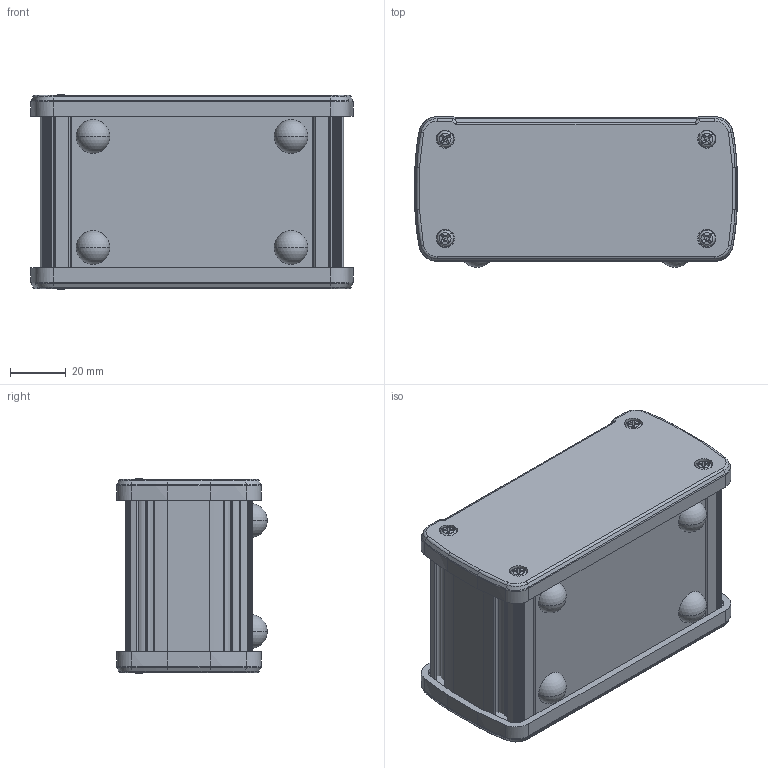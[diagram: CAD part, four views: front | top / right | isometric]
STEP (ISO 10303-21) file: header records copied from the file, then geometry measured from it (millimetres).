
FILE_DESCRIPTION (( 'STEP AP203' ), '1' );
FILE_NAME ('EX-56-01.step', '2017-08-29T18:19:26', ( '' ), ( '' ), 'SwSTEP 2.0', 'SolidWorks 2016', '' );
FILE_SCHEMA (( 'CONFIG_CONTROL_DESIGN' ));
Length unit declared in the file: inch
Products named in the file (7): EX-56G; EX-56B-58B_EX-56B-01; EX-56-01; EX-01W; EX-01A; pan cross head_ks_EX-01S-01; EX-56E_EX-56E-01
Assembly tree (25 placements, depth 2):
  EX-56-01
    EX-56B-58B_EX-56B-01
    EX-56E_EX-56E-01  x2
    EX-56G  x2
    pan cross head_ks_EX-01S-01  x8
    EX-01W  x8
    EX-01A  x4
Bounding box: 115.1 x 53.8 x 69.49 mm (x, y, z)
Volume: 109806.9 mm3; surface area: 91080.8 mm2
Topology: 25 solids, 25 shells, 1180 faces, 3004 edges, 1872 vertices
Faces by surface type: plane 474, cylinder 442, cone 112, torus 112, sphere 40
Entity records: 23058 total; most frequent: CARTESIAN_POINT 6396, ORIENTED_EDGE 3256, DIRECTION 3236, EDGE_CURVE 1628, AXIS2_PLACEMENT_3D 1152, VERTEX_POINT 1040, VECTOR 932, LINE 932
